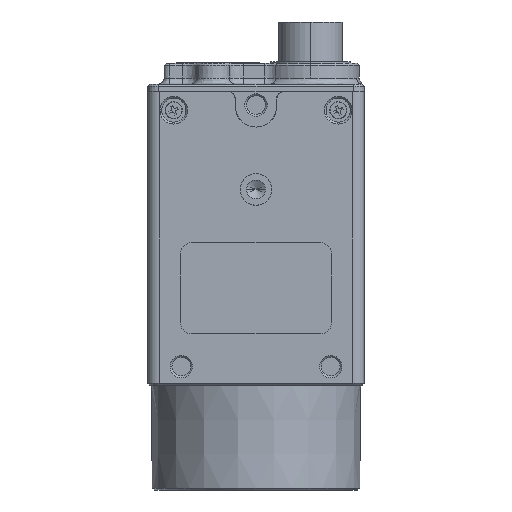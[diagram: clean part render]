
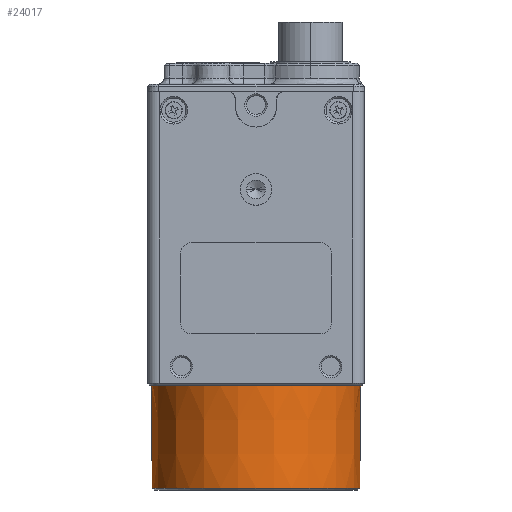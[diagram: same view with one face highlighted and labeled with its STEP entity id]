
A CAD part, front view. The second image highlights one B-rep face of the part: STEP entity #24017.
In plain terms, the highlighted conical face has half-angle 0.5 degrees and reference radius 14 mm.
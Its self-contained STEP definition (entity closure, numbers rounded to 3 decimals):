
#5171 = DIRECTION ( 'NONE',  ( 0., 0., 1. ) ) ;
#5389 = VECTOR ( 'NONE', #25843, 1000. ) ;
#6005 = AXIS2_PLACEMENT_3D ( 'NONE', #57912, #22505, #57415 ) ;
#6802 = VERTEX_POINT ( 'NONE', #37648 ) ;
#8042 = ORIENTED_EDGE ( 'NONE', *, *, #15815, .F. ) ;
#8074 = CIRCLE ( 'NONE', #13907, 14. ) ;
#13907 = AXIS2_PLACEMENT_3D ( 'NONE', #40762, #5171, #46692 ) ;
#15815 = EDGE_CURVE ( 'NONE', #61601, #42551, #8074, .T. ) ;
#20283 = EDGE_CURVE ( 'NONE', #53755, #61601, #66852, .T. ) ;
#21086 = CARTESIAN_POINT ( 'NONE',  ( -14., 2.653, 14.025 ) ) ;
#22505 = DIRECTION ( 'NONE',  ( 0., 0., 1. ) ) ;
#24017 = ADVANCED_FACE ( 'NONE', ( #62914 ), #61027, .T. ) ;
#24080 = CIRCLE ( 'NONE', #75999, 13.88 ) ;
#25843 = DIRECTION ( 'NONE',  ( 0.009, 0., 1. ) ) ;
#27254 = ORIENTED_EDGE ( 'NONE', *, *, #39669, .T. ) ;
#32603 = DIRECTION ( 'NONE',  ( 0., 0., 1. ) ) ;
#32773 = DIRECTION ( 'NONE',  ( -0.009, 0., 1. ) ) ;
#35159 = LINE ( 'NONE', #61247, #5389 ) ;
#35430 = VECTOR ( 'NONE', #32773, 1000. ) ;
#37130 = CARTESIAN_POINT ( 'NONE',  ( 14., 2.653, 14.025 ) ) ;
#37648 = CARTESIAN_POINT ( 'NONE',  ( 13.88, 2.653, 0.277 ) ) ;
#39669 = EDGE_CURVE ( 'NONE', #53755, #6802, #24080, .T. ) ;
#40762 = CARTESIAN_POINT ( 'NONE',  ( 0., 2.653, 14.025 ) ) ;
#42551 = VERTEX_POINT ( 'NONE', #37130 ) ;
#45069 = CARTESIAN_POINT ( 'NONE',  ( -13.88, 2.653, 0.277 ) ) ;
#46692 = DIRECTION ( 'NONE',  ( 1., 0., 0. ) ) ;
#53755 = VERTEX_POINT ( 'NONE', #45069 ) ;
#57415 = DIRECTION ( 'NONE',  ( 1., 0., 0. ) ) ;
#57912 = CARTESIAN_POINT ( 'NONE',  ( 0., 2.653, 14.025 ) ) ;
#59062 = EDGE_LOOP ( 'NONE', ( #70788, #27254, #76042, #8042 ) ) ;
#61027 = CONICAL_SURFACE ( 'NONE', #6005, 14., 0.009 ) ;
#61247 = CARTESIAN_POINT ( 'NONE',  ( 14., 2.653, 14.025 ) ) ;
#61601 = VERTEX_POINT ( 'NONE', #74237 ) ;
#62914 = FACE_OUTER_BOUND ( 'NONE', #59062, .T. ) ;
#66852 = LINE ( 'NONE', #21086, #35430 ) ;
#67998 = CARTESIAN_POINT ( 'NONE',  ( 0., 2.653, 0.277 ) ) ;
#70162 = EDGE_CURVE ( 'NONE', #6802, #42551, #35159, .T. ) ;
#70788 = ORIENTED_EDGE ( 'NONE', *, *, #20283, .F. ) ;
#73927 = DIRECTION ( 'NONE',  ( -1., 0., 0. ) ) ;
#74237 = CARTESIAN_POINT ( 'NONE',  ( -14., 2.653, 14.025 ) ) ;
#75999 = AXIS2_PLACEMENT_3D ( 'NONE', #67998, #32603, #73927 ) ;
#76042 = ORIENTED_EDGE ( 'NONE', *, *, #70162, .T. ) ;
